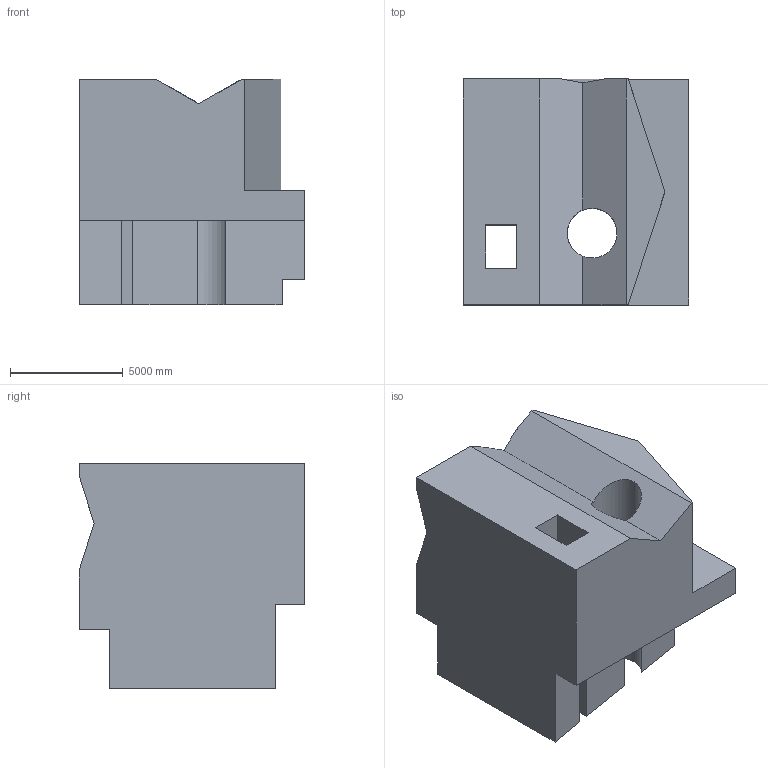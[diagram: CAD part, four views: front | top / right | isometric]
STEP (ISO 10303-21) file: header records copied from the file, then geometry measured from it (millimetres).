
FILE_DESCRIPTION (( 'STEP AP203' ), '1' );
FILE_NAME ('862.STEP', '2022-07-29T13:48:08', ( 'user' ), ( '' ), 'SwSTEP 2.0', 'SolidWorks 2021', '' );
FILE_SCHEMA (( 'CONFIG_CONTROL_DESIGN' ));
Length unit declared in the file: centimetre
Products named in the file (1): 862
Bounding box: 10000 x 10000 x 10000 mm (x, y, z)
Volume: 675463512432.4 mm3; surface area: 682535333.5 mm2
Topology: 1 solids, 1 shells, 37 faces, 108 edges, 72 vertices
Faces by surface type: plane 31, cylinder 6
Entity records: 1299 total; most frequent: CARTESIAN_POINT 230, ORIENTED_EDGE 216, DIRECTION 192, EDGE_CURVE 108, LINE 92, VECTOR 92, VERTEX_POINT 72, AXIS2_PLACEMENT_3D 50
